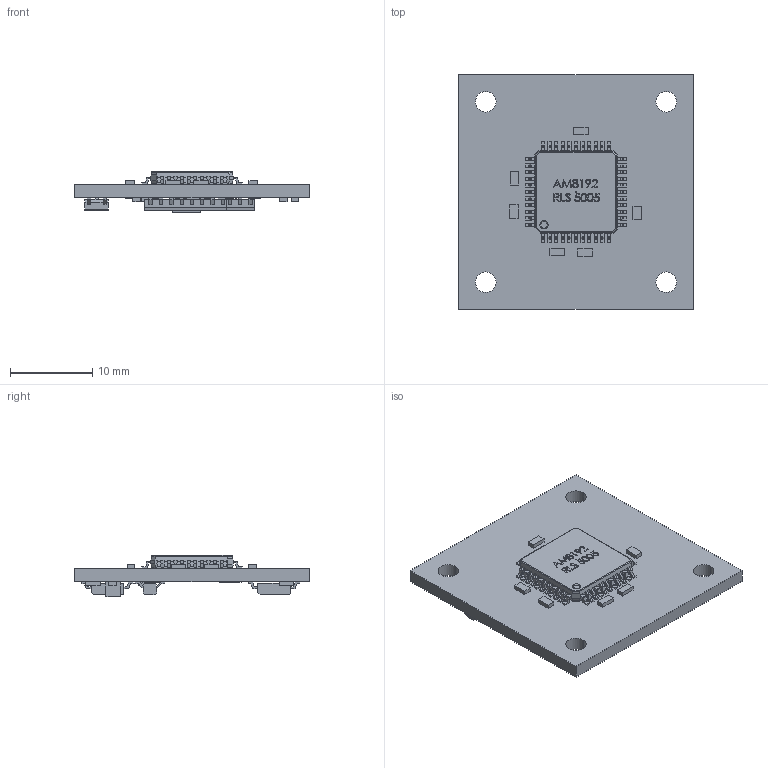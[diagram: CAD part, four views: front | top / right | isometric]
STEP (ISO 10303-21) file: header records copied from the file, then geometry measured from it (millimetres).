
FILE_DESCRIPTION (( 'STEP AP214' ), '1' );
FILE_NAME ('RMB28SI_HR-AM8192-MODM240.STEP', '2017-07-14T09:28:50', ( '' ), ( '' ), 'SwSTEP 2.0', 'SolidWorks 2016', '' );
FILE_SCHEMA (( 'AUTOMOTIVE_DESIGN' ));
Length unit declared in the file: millimetre
Products named in the file (1): RMB28SI_HR-AM8192-MODM240
Bounding box: 28.5 x 28.5 x 5.01 mm (x, y, z)
Volume: 1546.9 mm3; surface area: 2249.8 mm2
Topology: 1 solids, 1 shells, 1100 faces, 3235 edges, 2144 vertices
Faces by surface type: plane 894, cylinder 118, bspline 86, torus 2
Entity records: 43015 total; most frequent: CARTESIAN_POINT 12222, ORIENTED_EDGE 6470, DIRECTION 5287, EDGE_CURVE 3235, LINE 2837, VECTOR 2837, VERTEX_POINT 2144, EDGE_LOOP 1255
